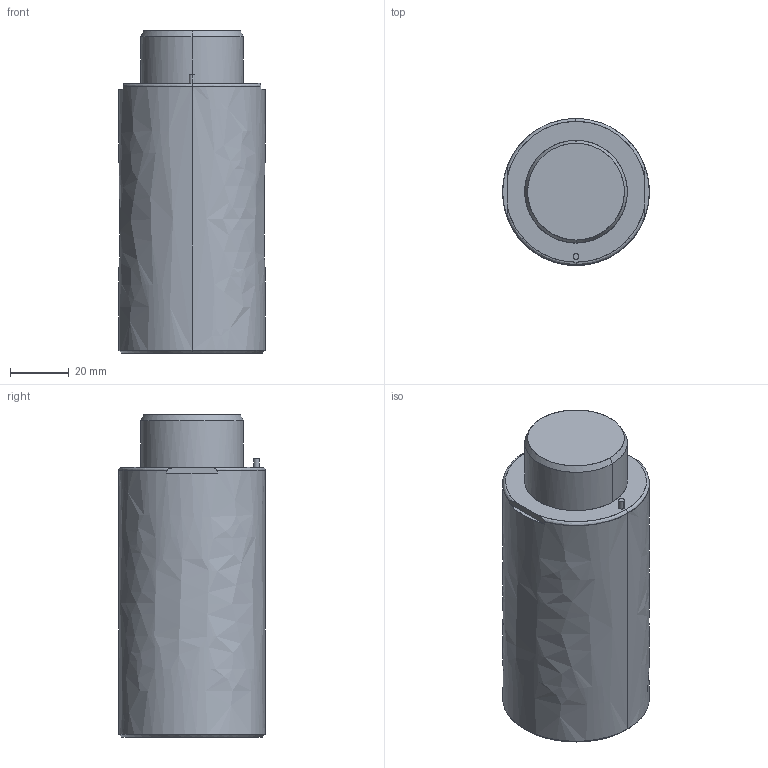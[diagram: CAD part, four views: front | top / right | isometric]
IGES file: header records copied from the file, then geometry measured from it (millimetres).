
Global section: file name: E:\UnigraphicsGraphicData\MISUMI_PRESS-PARTS\IGES\3d_gsx50-15_03958_r00.igs; native system: NX V5.0; preprocessor: UGS NX IGES V5.0; author: MISUMI; date: 20110105.160827; units: millimetre
Bounding box: 50 x 50 x 110 mm (x, y, z)
Surface area: 21826.2 mm2 (no closed solid volume)
Topology: 0 solids, 0 shells, 59 faces, 428 edges, 420 vertices
Faces by surface type: bspline 59
